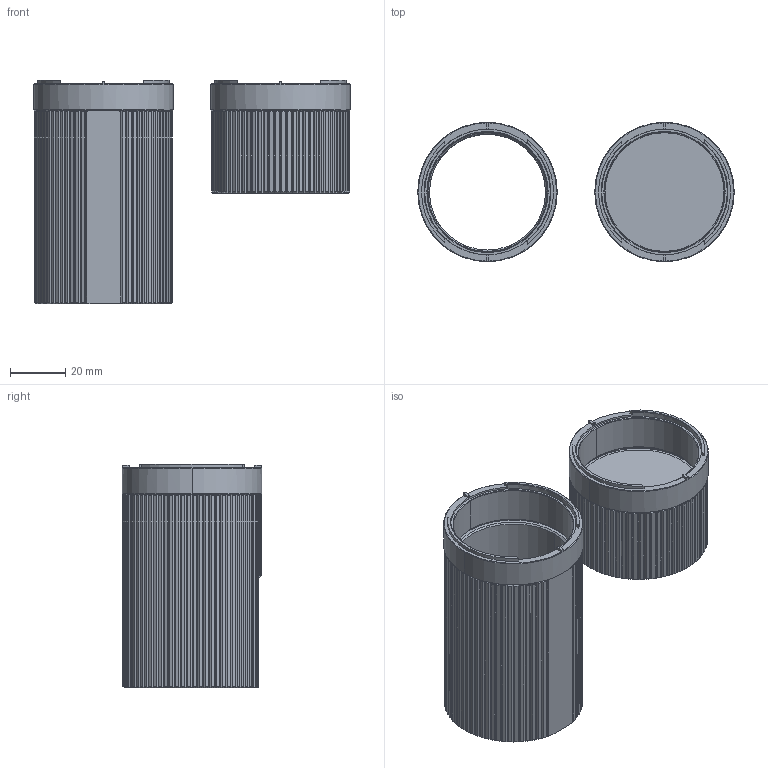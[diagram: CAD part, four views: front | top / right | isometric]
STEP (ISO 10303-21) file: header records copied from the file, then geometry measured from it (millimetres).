
FILE_DESCRIPTION((''),'2;1');
FILE_NAME('SM2-40_80_ASM','2020-10-29T',('Administrator'),(''),'CREO PARAMETRIC BY PTC INC, 2015290','CREO PARAMETRIC BY PTC INC, 2015290','');
FILE_SCHEMA(('CONFIG_CONTROL_DESIGN'));
Length unit declared in the file: millimetre
Products named in the file (4): SM2_A1; SM2-80; SM2-40; SM2-40_80_ASM
Assembly tree (4 placements, depth 2):
  SM2-40_80_ASM
    SM2_A1  x2
    SM2-80
    SM2-40
Bounding box: 114.62 x 50.5 x 81 mm (x, y, z)
Volume: 64079.5 mm3; surface area: 46864 mm2
Topology: 4 solids, 5 shells, 898 faces, 2614 edges, 1732 vertices
Faces by surface type: plane 325, cone 314, cylinder 227, bspline 32
Entity records: 36320 total; most frequent: CARTESIAN_POINT 14781, ORIENTED_EDGE 4910, DIRECTION 4035, EDGE_CURVE 2455, VERTEX_POINT 1629, AXIS2_PLACEMENT_3D 1464, VECTOR 1107, LINE 1107
